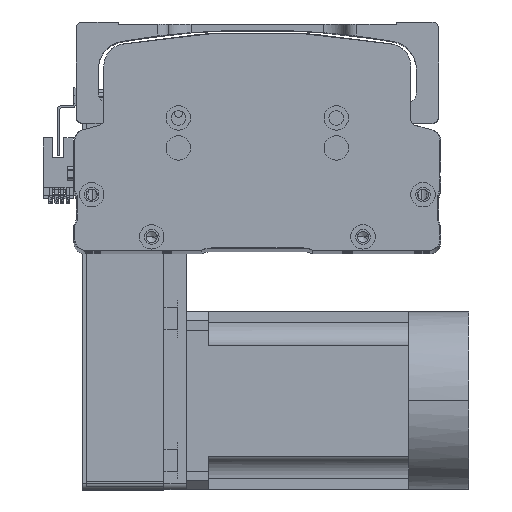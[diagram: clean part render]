
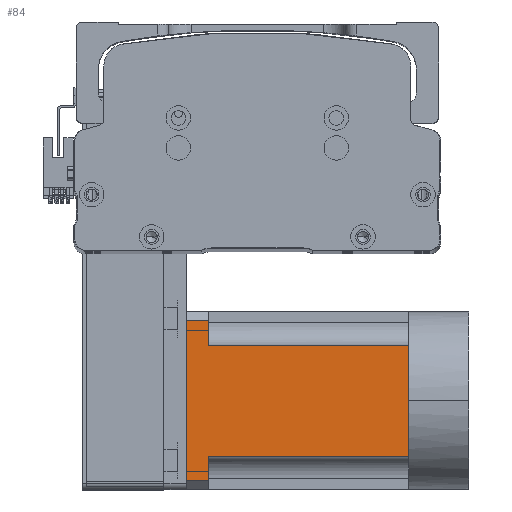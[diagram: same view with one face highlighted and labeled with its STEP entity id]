
A CAD part, top view. The second image highlights one B-rep face of the part: STEP entity #84.
In plain terms, the highlighted planar face has unit normal (0, 0, 1) as drawn and (0, 0, -1) by its records, which use the part's own axes.
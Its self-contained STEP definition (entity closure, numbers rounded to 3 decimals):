
#84 = ADVANCED_FACE ( 'NONE', ( #61577 ), #36444, .T. ) ;
#1101 = VECTOR ( 'NONE', #9204, 1000. ) ;
#1482 = ORIENTED_EDGE ( 'NONE', *, *, #25945, .T. ) ;
#1533 = VERTEX_POINT ( 'NONE', #27302 ) ;
#2152 = CARTESIAN_POINT ( 'NONE',  ( -25., -27., -40. ) ) ;
#3523 = ORIENTED_EDGE ( 'NONE', *, *, #6499, .T. ) ;
#5298 = LINE ( 'NONE', #31634, #42767 ) ;
#5646 = EDGE_LOOP ( 'NONE', ( #58019, #1482, #9652, #14871, #61839, #3523, #47755, #40329, #60637 ) ) ;
#5769 = DIRECTION ( 'NONE',  ( -1., 0., 0. ) ) ;
#5855 = VECTOR ( 'NONE', #49851, 1000. ) ;
#6065 = DIRECTION ( 'NONE',  ( -1., 0., 0. ) ) ;
#6499 = EDGE_CURVE ( 'NONE', #46698, #12857, #10745, .T. ) ;
#6699 = CARTESIAN_POINT ( 'NONE',  ( 25., 0., -40. ) ) ;
#7135 = DIRECTION ( 'NONE',  ( -1., 0., 0. ) ) ;
#7371 = LINE ( 'NONE', #25305, #5855 ) ;
#7723 = VERTEX_POINT ( 'NONE', #39439 ) ;
#8500 = VECTOR ( 'NONE', #49338, 1000. ) ;
#9204 = DIRECTION ( 'NONE',  ( 0., -1., 0. ) ) ;
#9652 = ORIENTED_EDGE ( 'NONE', *, *, #23168, .T. ) ;
#10745 = LINE ( 'NONE', #61695, #23707 ) ;
#12857 = VERTEX_POINT ( 'NONE', #53368 ) ;
#14871 = ORIENTED_EDGE ( 'NONE', *, *, #43839, .T. ) ;
#17496 = DIRECTION ( 'NONE',  ( -1., 0., 0. ) ) ;
#19123 = LINE ( 'NONE', #58208, #59611 ) ;
#20191 = LINE ( 'NONE', #40299, #33208 ) ;
#20973 = VERTEX_POINT ( 'NONE', #26795 ) ;
#21485 = LINE ( 'NONE', #34634, #8500 ) ;
#23168 = EDGE_CURVE ( 'NONE', #20973, #25108, #5298, .T. ) ;
#23707 = VECTOR ( 'NONE', #51906, 1000. ) ;
#25108 = VERTEX_POINT ( 'NONE', #40776 ) ;
#25305 = CARTESIAN_POINT ( 'NONE',  ( 25., -27., -40. ) ) ;
#25509 = VERTEX_POINT ( 'NONE', #29420 ) ;
#25638 = EDGE_CURVE ( 'NONE', #31127, #46698, #20191, .T. ) ;
#25645 = LINE ( 'NONE', #43432, #1101 ) ;
#25945 = EDGE_CURVE ( 'NONE', #34435, #20973, #25645, .T. ) ;
#26795 = CARTESIAN_POINT ( 'NONE',  ( 36., 90., -40. ) ) ;
#27302 = CARTESIAN_POINT ( 'NONE',  ( -36., 90., -40. ) ) ;
#27813 = EDGE_CURVE ( 'NONE', #1533, #25509, #21485, .T. ) ;
#28758 = VECTOR ( 'NONE', #5769, 1000. ) ;
#29420 = CARTESIAN_POINT ( 'NONE',  ( -36., 100., -40. ) ) ;
#30306 = LINE ( 'NONE', #54720, #28758 ) ;
#31127 = VERTEX_POINT ( 'NONE', #6699 ) ;
#31634 = CARTESIAN_POINT ( 'NONE',  ( -40., 90., -40. ) ) ;
#33208 = VECTOR ( 'NONE', #6065, 1000. ) ;
#34435 = VERTEX_POINT ( 'NONE', #51942 ) ;
#34634 = CARTESIAN_POINT ( 'NONE',  ( -36., -27., -40. ) ) ;
#36444 = PLANE ( 'NONE',  #44211 ) ;
#37575 = EDGE_CURVE ( 'NONE', #34435, #25509, #30306, .T. ) ;
#39439 = CARTESIAN_POINT ( 'NONE',  ( -25., 90., -40. ) ) ;
#40299 = CARTESIAN_POINT ( 'NONE',  ( -40., 0., -40. ) ) ;
#40329 = ORIENTED_EDGE ( 'NONE', *, *, #50122, .T. ) ;
#40776 = CARTESIAN_POINT ( 'NONE',  ( 25., 90., -40. ) ) ;
#41157 = DIRECTION ( 'NONE',  ( 0., 0., -1. ) ) ;
#41327 = DIRECTION ( 'NONE',  ( 0., 1., 0. ) ) ;
#42767 = VECTOR ( 'NONE', #17496, 1000. ) ;
#43432 = CARTESIAN_POINT ( 'NONE',  ( 36., -27., -40. ) ) ;
#43839 = EDGE_CURVE ( 'NONE', #25108, #31127, #7371, .T. ) ;
#44211 = AXIS2_PLACEMENT_3D ( 'NONE', #60744, #41157, #7135 ) ;
#46698 = VERTEX_POINT ( 'NONE', #56650 ) ;
#47255 = VECTOR ( 'NONE', #41327, 1000. ) ;
#47755 = ORIENTED_EDGE ( 'NONE', *, *, #50870, .T. ) ;
#49338 = DIRECTION ( 'NONE',  ( 0., 1., 0. ) ) ;
#49851 = DIRECTION ( 'NONE',  ( 0., -1., 0. ) ) ;
#50122 = EDGE_CURVE ( 'NONE', #7723, #1533, #19123, .T. ) ;
#50870 = EDGE_CURVE ( 'NONE', #12857, #7723, #60215, .T. ) ;
#51906 = DIRECTION ( 'NONE',  ( -1., 0., 0. ) ) ;
#51942 = CARTESIAN_POINT ( 'NONE',  ( 36., 100., -40. ) ) ;
#53368 = CARTESIAN_POINT ( 'NONE',  ( -25., 0., -40. ) ) ;
#54720 = CARTESIAN_POINT ( 'NONE',  ( -40., 100., -40. ) ) ;
#56650 = CARTESIAN_POINT ( 'NONE',  ( 0., 0., -40. ) ) ;
#58019 = ORIENTED_EDGE ( 'NONE', *, *, #37575, .F. ) ;
#58208 = CARTESIAN_POINT ( 'NONE',  ( -40., 90., -40. ) ) ;
#59611 = VECTOR ( 'NONE', #63130, 1000. ) ;
#60215 = LINE ( 'NONE', #2152, #47255 ) ;
#60637 = ORIENTED_EDGE ( 'NONE', *, *, #27813, .T. ) ;
#60744 = CARTESIAN_POINT ( 'NONE',  ( -40., -27., -40. ) ) ;
#61577 = FACE_OUTER_BOUND ( 'NONE', #5646, .T. ) ;
#61695 = CARTESIAN_POINT ( 'NONE',  ( -40., 0., -40. ) ) ;
#61839 = ORIENTED_EDGE ( 'NONE', *, *, #25638, .T. ) ;
#63130 = DIRECTION ( 'NONE',  ( -1., 0., 0. ) ) ;
